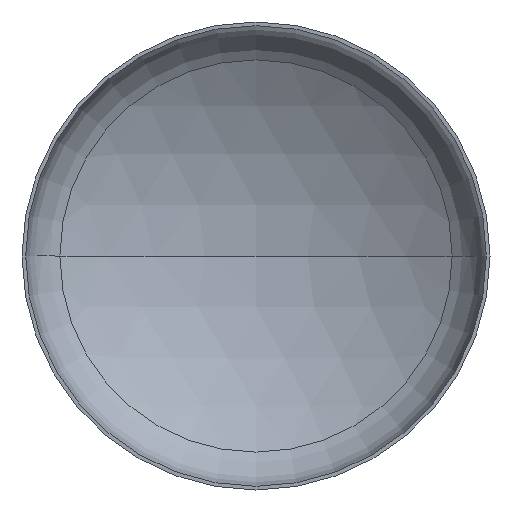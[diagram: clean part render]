
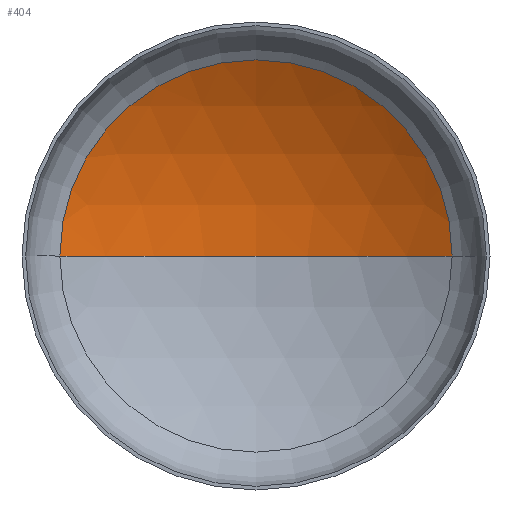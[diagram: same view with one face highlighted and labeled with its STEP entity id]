
A CAD part, front view. The second image highlights one B-rep face of the part: STEP entity #404.
In plain terms, the highlighted spherical face has radius 1120 mm.
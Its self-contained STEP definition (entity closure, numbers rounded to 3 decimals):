
#8 = AXIS2_PLACEMENT_3D ( 'NONE', #187, #360, #299 ) ;
#17 = ORIENTED_EDGE ( 'NONE', *, *, #315, .F. ) ;
#19 = EDGE_LOOP ( 'NONE', ( #17, #131, #107 ) ) ;
#22 = AXIS2_PLACEMENT_3D ( 'NONE', #155, #173, #172 ) ;
#88 = CIRCLE ( 'NONE', #243, 586.608 ) ;
#107 = ORIENTED_EDGE ( 'NONE', *, *, #336, .T. ) ;
#117 = VERTEX_POINT ( 'NONE', #304 ) ;
#122 = VERTEX_POINT ( 'NONE', #221 ) ;
#131 = ORIENTED_EDGE ( 'NONE', *, *, #312, .T. ) ;
#155 = CARTESIAN_POINT ( 'NONE',  ( 0., -730.94, 0. ) ) ;
#172 = DIRECTION ( 'NONE',  ( -1., 0., 0. ) ) ;
#173 = DIRECTION ( 'NONE',  ( 0., 0., -1. ) ) ;
#187 = CARTESIAN_POINT ( 'NONE',  ( 0., -730.94, 0. ) ) ;
#190 = DIRECTION ( 'NONE',  ( -1., 0., 0. ) ) ;
#201 = CIRCLE ( 'NONE', #8, 1120. ) ;
#217 = CIRCLE ( 'NONE', #22, 1120. ) ;
#221 = CARTESIAN_POINT ( 'NONE',  ( 0., 389.06, 0. ) ) ;
#234 = SPHERICAL_SURFACE ( 'NONE', #393, 1120. ) ;
#243 = AXIS2_PLACEMENT_3D ( 'NONE', #368, #254, #298 ) ;
#254 = DIRECTION ( 'NONE',  ( 0., -1., 0. ) ) ;
#281 = CARTESIAN_POINT ( 'NONE',  ( 586.608, 223.152, 0. ) ) ;
#283 = FACE_OUTER_BOUND ( 'NONE', #19, .T. ) ;
#298 = DIRECTION ( 'NONE',  ( 1., 0., 0. ) ) ;
#299 = DIRECTION ( 'NONE',  ( 1., 0., 0. ) ) ;
#304 = CARTESIAN_POINT ( 'NONE',  ( -586.608, 223.152, 0. ) ) ;
#312 = EDGE_CURVE ( 'NONE', #122, #383, #217, .T. ) ;
#315 = EDGE_CURVE ( 'NONE', #122, #117, #201, .T. ) ;
#336 = EDGE_CURVE ( 'NONE', #383, #117, #88, .T. ) ;
#342 = DIRECTION ( 'NONE',  ( 0., 0., -1. ) ) ;
#360 = DIRECTION ( 'NONE',  ( 0., 0., 1. ) ) ;
#368 = CARTESIAN_POINT ( 'NONE',  ( 0., 223.152, 0. ) ) ;
#383 = VERTEX_POINT ( 'NONE', #281 ) ;
#393 = AXIS2_PLACEMENT_3D ( 'NONE', #394, #342, #190 ) ;
#394 = CARTESIAN_POINT ( 'NONE',  ( 0., -730.94, 0. ) ) ;
#404 = ADVANCED_FACE ( 'NONE', ( #283 ), #234, .F. ) ;
